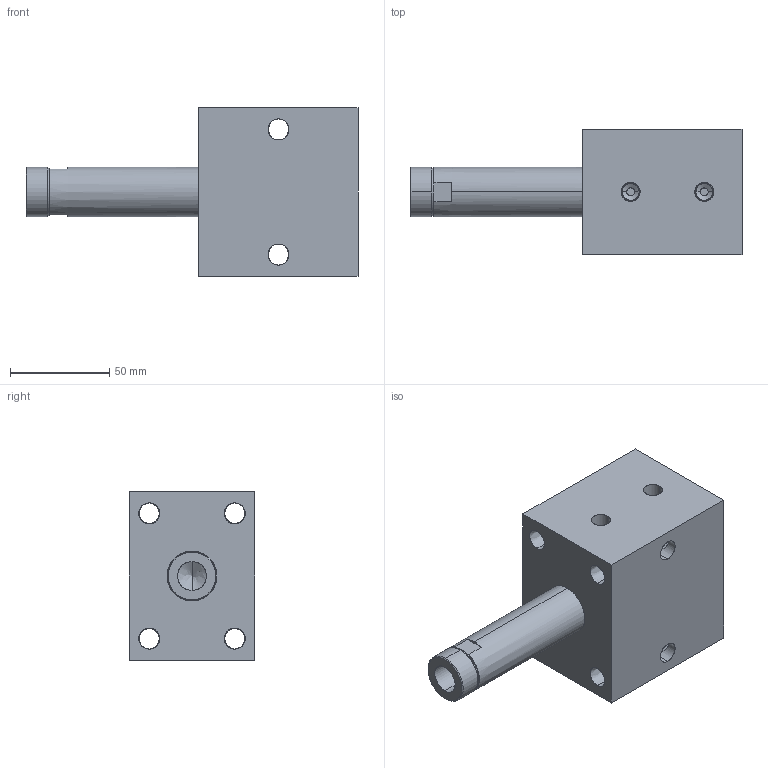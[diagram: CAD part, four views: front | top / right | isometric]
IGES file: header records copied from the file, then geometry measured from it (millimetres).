
Start section: SolidWorks IGES file using analytic representation for surfaces
Global section: file name: C:\Documents and Settings\rajib\Desktop\Rajib\BLOCK CYLINDER HYDRAULIC\0401-0406\IGS 0401-0406\0406.IGS; native system: SolidWorks 2007; preprocessor: SolidWorks 2007; author: rajib; date: 110121.102714; units: millimetre
Bounding box: 167 x 63 x 85 mm (x, y, z)
Surface area: 56560.6 mm2 (no closed solid volume)
Topology: 0 solids, 0 shells, 80 faces, 1752 edges, 1750 vertices
Faces by surface type: revolution 58, bspline 22
